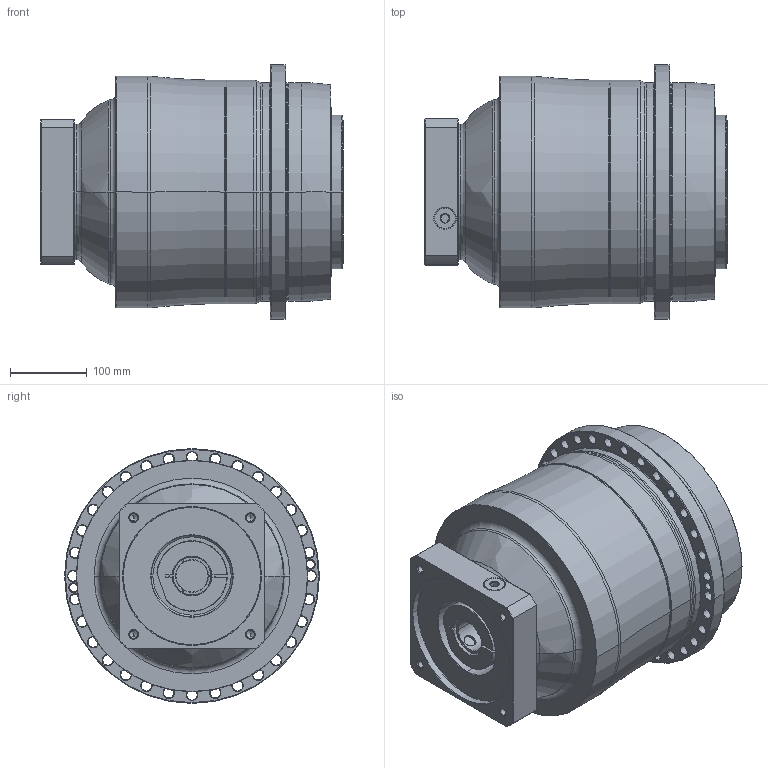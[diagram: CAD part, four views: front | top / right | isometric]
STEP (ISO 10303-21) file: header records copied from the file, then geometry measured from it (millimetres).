
FILE_DESCRIPTION((''),'2;1');
FILE_NAME('AP285_3ST_42-P0409A00201_ASM','2018-06-07T',('d01226'),(''),'PRO/ENGINEER BY PARAMETRIC TECHNOLOGY CORPORATION, 2008410','PRO/ENGINEER BY PARAMETRIC TECHNOLOGY CORPORATION, 2008410','');
FILE_SCHEMA(('CONFIG_CONTROL_DESIGN'));
Length unit declared in the file: millimetre
Products named in the file (9): P0278801003; P0359801103; P1366800301; P0503A00012; P0912603001; P1211800001; P0409A00201; 21711422019; AP285_3ST_42-P0409A00201_ASM
Assembly tree (8 placements, depth 2):
  AP285_3ST_42-P0409A00201_ASM
    P0278801003
    P0359801103
    P1366800301
    P0503A00012
    P0912603001
    P1211800001
    P0409A00201
    21711422019
Bounding box: 394.5 x 332 x 332 mm (x, y, z)
Volume: 22103448.6 mm3; surface area: 1028237.9 mm2
Topology: 9 solids, 32 shells, 677 faces, 1563 edges, 948 vertices
Faces by surface type: cylinder 266, cone 220, plane 99, torus 76, bspline 16
Entity records: 24145 total; most frequent: CARTESIAN_POINT 7930, DIRECTION 3741, ORIENTED_EDGE 3016, AXIS2_PLACEMENT_3D 1595, EDGE_CURVE 1555, VERTEX_POINT 948, CIRCLE 905, EDGE_LOOP 835
